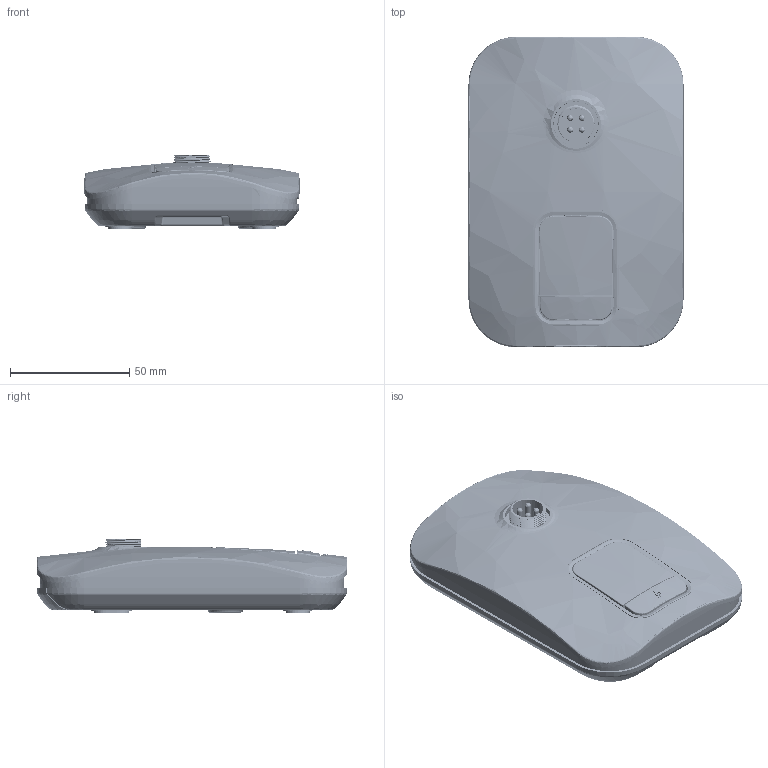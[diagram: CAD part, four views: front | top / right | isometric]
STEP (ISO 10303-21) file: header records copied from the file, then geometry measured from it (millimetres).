
FILE_DESCRIPTION((''),'2;1');
FILE_NAME('ASSY_PODIUM_FULL_20211010_ASM','2024-03-30T17:42:59',('DELL'),(''),'CREO PARAMETRIC BY PTC INC, 2022073','CREO PARAMETRIC BY PTC INC, 2022073','');
FILE_SCHEMA(('CONFIG_CONTROL_DESIGN'));
Length unit declared in the file: millimetre
Products named in the file (75): BODY76; MAGNET; BODY84; BODY88; MAGNET__1_; BODY90; BODY93; SLIDE_BTN; BODY96; BODY97; BODY101; BODY102; BODY107; BODY111; DISPLAY; BODY116; BODY119; B2B_CONN__2_; WIRE; COIL; BODY125; BODY127; BODY130; BODY131; BODY132; LIGHTPIPE_20210305; RUBBER_20210305; BRACKET_20210406; BOTTOM; LEVE0CFCAC1AR85S_1; MUTE_20210305; DISPLAY_LENS_20210305; MCH-0446-001_PODIUM_TOP_COVER_2; CONNECTOR-1; CONNECTOR-2; WASHER_PODIUM; NUT_PODIUM; PODIUM_CONNECTOR_ASM; SUB_PODIUM_FRONT_ASM; MIC_CARDIOID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
Assembly tree (78 placements, depth 5):
  ASSY_PODIUM_FULL_20211010_ASM
    LEVE0CFCAC1AR85S_PODIUM_ASM
      BODY76
      MAGNET
      BODY84
      BODY88
      MAGNET__1_
      BODY90
      BODY93
      SLIDE_BTN
      BODY96
      BODY97
      BODY101
      BODY102
      BODY107
      BODY111
      DISPLAY
      BODY116
      BODY119
      B2B_CONN__2_
      WIRE  x2
      COIL
      BODY125
      BODY127
      BODY130
      BODY131
      BODY132
      LIGHTPIPE_20210305
      RUBBER_20210305
      BRACKET_20210406
      BOTTOM
      LEVE0CFCAC1AR85S_1
      SUB_PODIUM_FRONT_ASM
        MUTE_20210305
        DISPLAY_LENS_20210305
        MCH-0446-001_PODIUM_TOP_COVER_2
        PODIUM_CONNECTOR_ASM
          CONNECTOR-1
          CONNECTOR-2
          WASHER_PODIUM
          NUT_PODIUM
      MAIN_PCBA_ASM
        MIC_CARDIOID
        MIC_OMNI
        BODY72
        SLIDE_SWTCH
        PCB_MAIN
        BODY100
        LED_20210305
        TACT_SWTCH
        BODY151
        4-PIN_CHARGER
        BODY152
        BODY99
        BODY148
        BODY149
      ATN_PCBA_ASM
        BODY85
        PCB_ANTENNA
        ANTENNA
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Bounding box: 90 x 130 x 31.2 mm (x, y, z)
Volume: 108506.1 mm3; surface area: 131949.9 mm2
Topology: 69 solids, 86 shells, 10160 faces, 27907 edges, 18407 vertices
Faces by surface type: plane 6317, cylinder 1652, extrusion 1180, bspline 438, cone 337, torus 199, sphere 31, revolution 6
Entity records: 353971 total; most frequent: CARTESIAN_POINT 116779, ORIENTED_EDGE 52147, DIRECTION 43091, EDGE_CURVE 26152, VECTOR 18543, LINE 17601, VERTEX_POINT 17240, AXIS2_PLACEMENT_3D 12271
